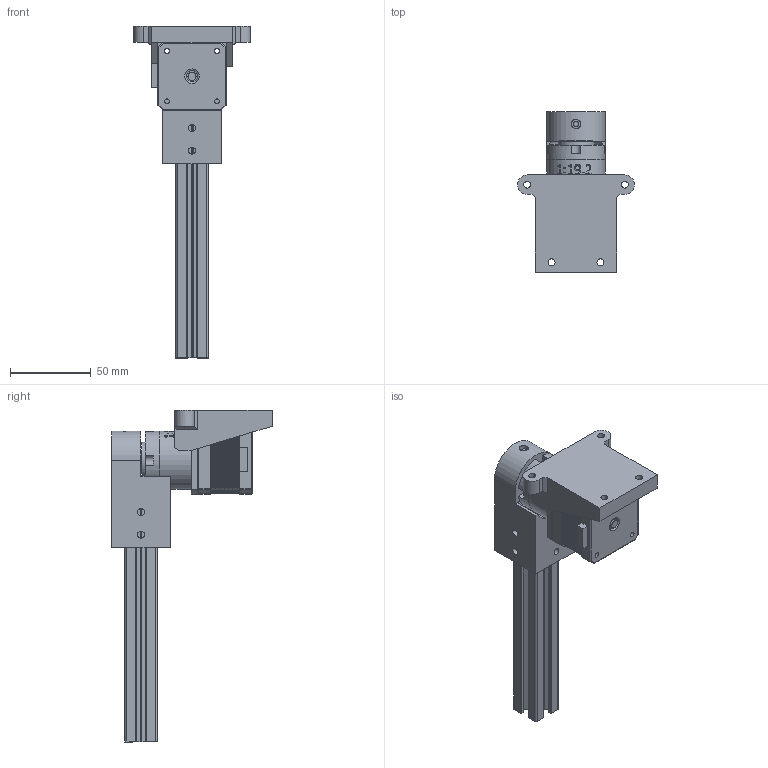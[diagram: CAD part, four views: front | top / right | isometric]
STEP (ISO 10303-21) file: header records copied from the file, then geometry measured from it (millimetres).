
FILE_DESCRIPTION(/* description */ (''),/* implementation_level */ '2;1');
FILE_NAME(/* name */ 'Assieme_nema_riduttore2.stp',/* time_stamp */ '2026-01-20T12:43:12+01:00',/* author */ ('Ryzen5700u'),/* organization */ (''),/* preprocessor_version */ 'ST-DEVELOPER v20',/* originating_system */ 'Autodesk Inventor 2025',/* authorisation */ '');
FILE_SCHEMA (('AUTOMOTIVE_DESIGN { 1 0 10303 214 3 1 1 }'));
Length unit declared in the file: millimetre
Products named in the file (6): Assieme_nema_riduttore2; NEMA 42SHDC3030Z; riduttore_nema17_2; blocco_albero; blocco1; tslot-20x20-5
Assembly tree (5 placements, depth 2):
  Assieme_nema_riduttore2
    NEMA 42SHDC3030Z
    riduttore_nema17_2
    blocco_albero
    blocco1
    tslot-20x20-5
Bounding box: 72.2 x 99 x 205 mm (x, y, z)
Volume: 211820.6 mm3; surface area: 76806.5 mm2
Topology: 8 solids, 8 shells, 1066 faces, 2671 edges, 1650 vertices
Faces by surface type: plane 880, cylinder 120, bspline 32, sphere 16, cone 10, torus 8
Full cylindrical faces by diameter (mm): 3 x4, 3.2 x16, 4.2 x1, 4.3 x12, 5 x1, 5.7 x3, 6.5 x4, 7 x5, 8 x2, 8.2 x1, 10 x1, 16 x1, 22 x3, 35.8 x1, 36 x2
Entity records: 32979 total; most frequent: CARTESIAN_POINT 6550, ORIENTED_EDGE 5294, DIRECTION 4966, EDGE_CURVE 2647, LINE 2264, VECTOR 2264, VERTEX_POINT 1649, AXIS2_PLACEMENT_3D 1351
